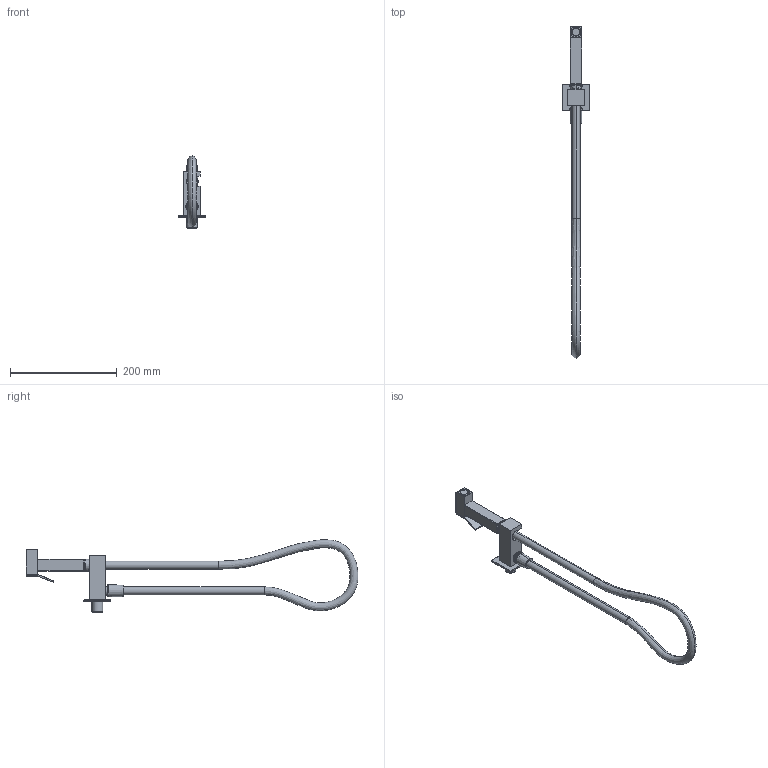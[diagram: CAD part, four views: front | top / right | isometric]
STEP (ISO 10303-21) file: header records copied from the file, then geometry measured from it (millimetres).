
FILE_DESCRIPTION((''),'2;1');
FILE_NAME('35402_ASM','2024-07-10T09:18:22',('carloff'),(''),'CREO PARAMETRIC BY PTC INC, 2022014','CREO PARAMETRIC BY PTC INC, 2022014','');
FILE_SCHEMA(('CONFIG_CONTROL_DESIGN'));
Length unit declared in the file: millimetre
Products named in the file (4): A458000576; A305000156; A488000265; 35402_ASM
Assembly tree (3 placements, depth 2):
  35402_ASM
    A458000576
    A305000156
    A488000265
Bounding box: 50 x 621.66 x 135.63 mm (x, y, z)
Volume: 310363 mm3; surface area: 107031.7 mm2
Topology: 3 solids, 3 shells, 260 faces, 594 edges, 367 vertices
Faces by surface type: cylinder 111, plane 78, cone 28, bspline 24, sphere 14, torus 5
Entity records: 11963 total; most frequent: CARTESIAN_POINT 6107, DIRECTION 1197, ORIENTED_EDGE 1188, EDGE_CURVE 594, AXIS2_PLACEMENT_3D 468, VERTEX_POINT 367, EDGE_LOOP 289, VECTOR 261
